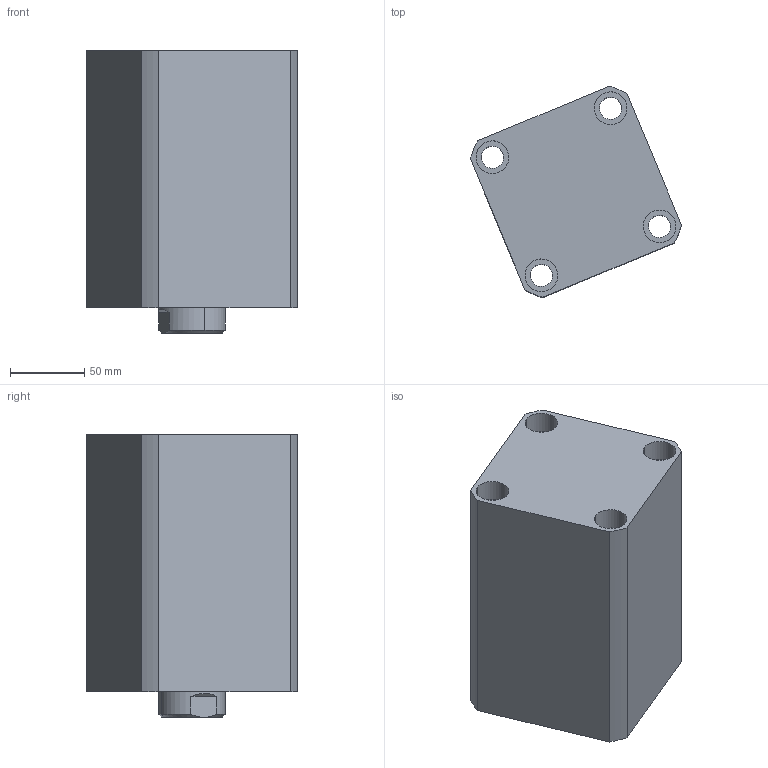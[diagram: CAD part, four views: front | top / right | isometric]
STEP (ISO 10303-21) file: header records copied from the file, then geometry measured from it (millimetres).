
FILE_DESCRIPTION (( 'STEP AP214' ), '1' );
FILE_NAME ('chtb-sd80x95n_asm.STEP', '2018-05-26T04:30:11', ( 'Windows' ), ( 'Microsoft' ), 'SwSTEP 2.0', 'SolidWorks 2015', '' );
FILE_SCHEMA (( 'AUTOMOTIVE_DESIGN' ));
Length unit declared in the file: millimetre
Products named in the file (4): CHTB-SD80X95NHSG; CHTB-SD80X95NBT; CHTB-SD80QG; chtb-sd80x95n_asm
Assembly tree (3 placements, depth 2):
  chtb-sd80x95n_asm
    CHTB-SD80QG
    CHTB-SD80X95NBT
    CHTB-SD80X95NHSG
Bounding box: 142.06 x 142.06 x 190 mm (x, y, z)
Volume: 1731768.3 mm3; surface area: 246392.8 mm2
Topology: 3 solids, 3 shells, 192 faces, 510 edges, 341 vertices
Faces by surface type: cylinder 103, plane 37, cone 20, torus 18, bspline 14
Entity records: 15144 total; most frequent: CARTESIAN_POINT 10435, ORIENTED_EDGE 1008, DIRECTION 889, EDGE_CURVE 504, AXIS2_PLACEMENT_3D 374, VERTEX_POINT 341, EDGE_LOOP 229, FACE_OUTER_BOUND 192
